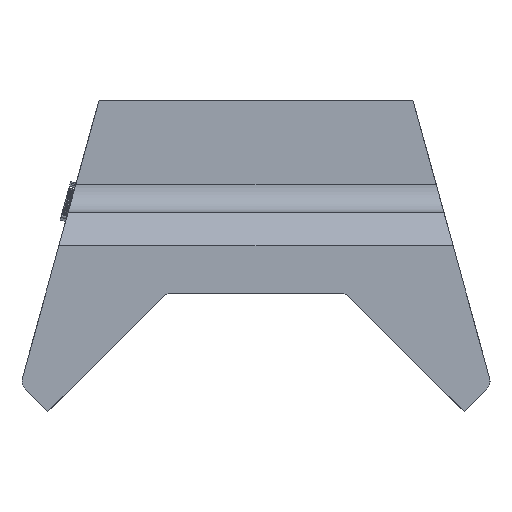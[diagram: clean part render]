
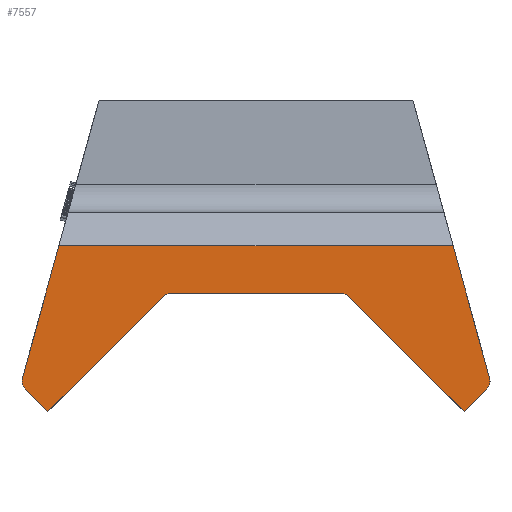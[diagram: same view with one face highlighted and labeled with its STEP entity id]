
A CAD part, left-side view. The second image highlights one B-rep face of the part: STEP entity #7557.
In plain terms, the highlighted planar face has unit normal (-1, 0, 0).
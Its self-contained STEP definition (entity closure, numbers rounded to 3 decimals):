
#220=CARTESIAN_POINT('Vertex',(-44.,41.678,25.433)) ;
#223=CARTESIAN_POINT('Line Origine',(-44.,38.424,37.226)) ;
#227=CARTESIAN_POINT('Vertex',(-44.,35.169,49.019)) ;
#7455=CARTESIAN_POINT('Vertex',(-44.,41.164,23.487)) ;
#7458=CARTESIAN_POINT('Axis2P3D Location',(-44.,39.75,24.901)) ;
#7470=CARTESIAN_POINT('Axis2P3D Location',(-44.,0.,0.)) ;
#7475=CARTESIAN_POINT('Line Origine',(-44.,0.,40.5)) ;
#7479=CARTESIAN_POINT('Vertex',(-44.,-15.447,40.5)) ;
#7481=CARTESIAN_POINT('Vertex',(-44.,15.447,40.5)) ;
#7484=CARTESIAN_POINT('Axis2P3D Location',(-44.,-15.447,39.)) ;
#7488=CARTESIAN_POINT('Vertex',(-44.,-16.508,40.061)) ;
#7491=CARTESIAN_POINT('Line Origine',(-44.,-26.815,29.753)) ;
#7495=CARTESIAN_POINT('Vertex',(-44.,-37.123,19.445)) ;
#7498=CARTESIAN_POINT('Line Origine',(-44.,-39.144,21.466)) ;
#7502=CARTESIAN_POINT('Vertex',(-44.,-41.164,23.487)) ;
#7505=CARTESIAN_POINT('Axis2P3D Location',(-44.,-39.75,24.901)) ;
#7509=CARTESIAN_POINT('Vertex',(-44.,-41.678,25.433)) ;
#7512=CARTESIAN_POINT('Line Origine',(-44.,-38.424,37.226)) ;
#7516=CARTESIAN_POINT('Vertex',(-44.,-35.169,49.019)) ;
#7519=CARTESIAN_POINT('Line Origine',(-44.,0.,49.019)) ;
#7524=CARTESIAN_POINT('Line Origine',(-44.,39.144,21.466)) ;
#7528=CARTESIAN_POINT('Vertex',(-44.,37.123,19.445)) ;
#7531=CARTESIAN_POINT('Line Origine',(-44.,26.815,29.753)) ;
#7535=CARTESIAN_POINT('Vertex',(-44.,16.508,40.061)) ;
#7538=CARTESIAN_POINT('Axis2P3D Location',(-44.,15.447,39.)) ;
#224=DIRECTION('Vector Direction',(0.,-0.266,0.964)) ;
#7459=DIRECTION('Axis2P3D Direction',(1.,0.,0.)) ;
#7471=DIRECTION('Axis2P3D Direction',(1.,0.,0.)) ;
#7472=DIRECTION('Axis2P3D XDirection',(0.,1.,0.)) ;
#7476=DIRECTION('Vector Direction',(0.,-1.,0.)) ;
#7485=DIRECTION('Axis2P3D Direction',(1.,0.,0.)) ;
#7492=DIRECTION('Vector Direction',(0.,0.707,0.707)) ;
#7499=DIRECTION('Vector Direction',(0.,0.707,-0.707)) ;
#7506=DIRECTION('Axis2P3D Direction',(1.,0.,0.)) ;
#7513=DIRECTION('Vector Direction',(0.,-0.266,-0.964)) ;
#7520=DIRECTION('Vector Direction',(0.,1.,0.)) ;
#7525=DIRECTION('Vector Direction',(0.,0.707,0.707)) ;
#7532=DIRECTION('Vector Direction',(0.,-0.707,0.707)) ;
#7539=DIRECTION('Axis2P3D Direction',(1.,0.,0.)) ;
#7460=AXIS2_PLACEMENT_3D('Circle Axis2P3D',#7458,#7459,$) ;
#7473=AXIS2_PLACEMENT_3D('Plane Axis2P3D',#7470,#7471,#7472) ;
#7486=AXIS2_PLACEMENT_3D('Circle Axis2P3D',#7484,#7485,$) ;
#7507=AXIS2_PLACEMENT_3D('Circle Axis2P3D',#7505,#7506,$) ;
#7540=AXIS2_PLACEMENT_3D('Circle Axis2P3D',#7538,#7539,$) ;
#7544=ORIENTED_EDGE('',*,*,#7483,.F.) ;
#7545=ORIENTED_EDGE('',*,*,#7490,.T.) ;
#7546=ORIENTED_EDGE('',*,*,#7497,.T.) ;
#7547=ORIENTED_EDGE('',*,*,#7504,.F.) ;
#7548=ORIENTED_EDGE('',*,*,#7511,.F.) ;
#7549=ORIENTED_EDGE('',*,*,#7518,.F.) ;
#7550=ORIENTED_EDGE('',*,*,#7523,.T.) ;
#7551=ORIENTED_EDGE('',*,*,#229,.F.) ;
#7552=ORIENTED_EDGE('',*,*,#7462,.F.) ;
#7553=ORIENTED_EDGE('',*,*,#7530,.F.) ;
#7554=ORIENTED_EDGE('',*,*,#7537,.T.) ;
#7555=ORIENTED_EDGE('',*,*,#7542,.T.) ;
#225=VECTOR('Line Direction',#224,1.) ;
#7477=VECTOR('Line Direction',#7476,1.) ;
#7493=VECTOR('Line Direction',#7492,1.) ;
#7500=VECTOR('Line Direction',#7499,1.) ;
#7514=VECTOR('Line Direction',#7513,1.) ;
#7521=VECTOR('Line Direction',#7520,1.) ;
#7526=VECTOR('Line Direction',#7525,1.) ;
#7533=VECTOR('Line Direction',#7532,1.) ;
#7557=ADVANCED_FACE('EGT_100_80RD30_X90_SIM_ET.1\\',(#7556),#7474,.F.) ;
#7461=CIRCLE('generated circle',#7460,2.) ;
#7487=CIRCLE('generated circle',#7486,1.5) ;
#7508=CIRCLE('generated circle',#7507,2.) ;
#7541=CIRCLE('generated circle',#7540,1.5) ;
#229=EDGE_CURVE('',#221,#228,#226,.T.) ;
#7462=EDGE_CURVE('',#7456,#221,#7461,.T.) ;
#7483=EDGE_CURVE('',#7480,#7482,#7478,.F.) ;
#7490=EDGE_CURVE('',#7480,#7489,#7487,.T.) ;
#7497=EDGE_CURVE('',#7489,#7496,#7494,.F.) ;
#7504=EDGE_CURVE('',#7503,#7496,#7501,.T.) ;
#7511=EDGE_CURVE('',#7510,#7503,#7508,.T.) ;
#7518=EDGE_CURVE('',#7517,#7510,#7515,.T.) ;
#7523=EDGE_CURVE('',#7517,#228,#7522,.T.) ;
#7530=EDGE_CURVE('',#7529,#7456,#7527,.T.) ;
#7537=EDGE_CURVE('',#7529,#7536,#7534,.T.) ;
#7542=EDGE_CURVE('',#7536,#7482,#7541,.T.) ;
#7543=EDGE_LOOP('',(#7544,#7545,#7546,#7547,#7548,#7549,#7550,#7551,#7552,#7553,#7554,#7555)) ;
#7556=FACE_OUTER_BOUND('',#7543,.T.) ;
#226=LINE('Line',#223,#225) ;
#7478=LINE('Line',#7475,#7477) ;
#7494=LINE('Line',#7491,#7493) ;
#7501=LINE('Line',#7498,#7500) ;
#7515=LINE('Line',#7512,#7514) ;
#7522=LINE('Line',#7519,#7521) ;
#7527=LINE('Line',#7524,#7526) ;
#7534=LINE('Line',#7531,#7533) ;
#7474=PLANE('',#7473) ;
#221=VERTEX_POINT('',#220) ;
#228=VERTEX_POINT('',#227) ;
#7456=VERTEX_POINT('',#7455) ;
#7480=VERTEX_POINT('',#7479) ;
#7482=VERTEX_POINT('',#7481) ;
#7489=VERTEX_POINT('',#7488) ;
#7496=VERTEX_POINT('',#7495) ;
#7503=VERTEX_POINT('',#7502) ;
#7510=VERTEX_POINT('',#7509) ;
#7517=VERTEX_POINT('',#7516) ;
#7529=VERTEX_POINT('',#7528) ;
#7536=VERTEX_POINT('',#7535) ;
